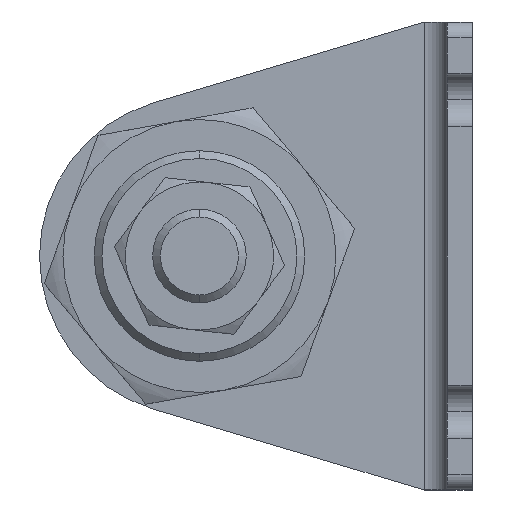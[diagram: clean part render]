
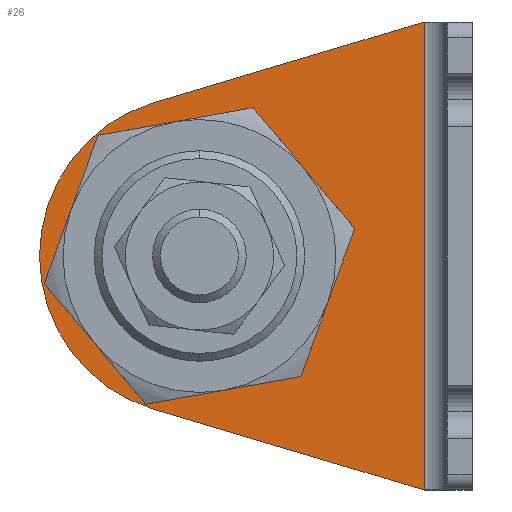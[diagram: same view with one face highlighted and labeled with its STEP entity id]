
A CAD part, left-side view. The second image highlights one B-rep face of the part: STEP entity #26.
In plain terms, the highlighted planar face has unit normal (-1, 0, 0) as drawn and (1, 0, 0) by its records, which use the part's own axes.
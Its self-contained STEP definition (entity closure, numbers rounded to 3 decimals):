
#26 = ADVANCED_FACE ( 'NONE', ( #3120, #3950 ), #1825, .T. ) ;
#176 = EDGE_CURVE ( 'NONE', #1059, #430, #4418, .T. ) ;
#430 = VERTEX_POINT ( 'NONE', #5179 ) ;
#468 = DIRECTION ( 'NONE',  ( 0., 0.958, -0.286 ) ) ;
#507 = DIRECTION ( 'NONE',  ( 0., 0.958, 0.286 ) ) ;
#577 = CARTESIAN_POINT ( 'NONE',  ( 3.2, 6.2, -60. ) ) ;
#688 = CARTESIAN_POINT ( 'NONE',  ( 3.2, 40.868, -10.358 ) ) ;
#972 = VECTOR ( 'NONE', #507, 1000. ) ;
#1059 = VERTEX_POINT ( 'NONE', #3911 ) ;
#1176 = DIRECTION ( 'NONE',  ( 0., 1., 0. ) ) ;
#1350 = DIRECTION ( 'NONE',  ( 0., 0., -1. ) ) ;
#1378 = DIRECTION ( 'NONE',  ( 1., 0., 0. ) ) ;
#1500 = CARTESIAN_POINT ( 'NONE',  ( 3.2, 35., -30. ) ) ;
#1685 = CIRCLE ( 'NONE', #4055, 13.5 ) ;
#1825 = PLANE ( 'NONE',  #2512 ) ;
#1915 = LINE ( 'NONE', #5150, #5566 ) ;
#1977 = ORIENTED_EDGE ( 'NONE', *, *, #5180, .F. ) ;
#2006 = LINE ( 'NONE', #3556, #4849 ) ;
#2019 = DIRECTION ( 'NONE',  ( 1., 0., 0. ) ) ;
#2277 = EDGE_CURVE ( 'NONE', #5093, #4476, #2006, .T. ) ;
#2317 = EDGE_CURVE ( 'NONE', #5093, #2628, #1915, .T. ) ;
#2512 = AXIS2_PLACEMENT_3D ( 'NONE', #3292, #2019, #4896 ) ;
#2628 = VERTEX_POINT ( 'NONE', #688 ) ;
#2792 = CARTESIAN_POINT ( 'NONE',  ( 3.2, 3.446, -60.823 ) ) ;
#2810 = CIRCLE ( 'NONE', #5396, 20.5 ) ;
#3045 = EDGE_CURVE ( 'NONE', #4876, #3445, #1685, .T. ) ;
#3120 = FACE_BOUND ( 'NONE', #4574, .T. ) ;
#3248 = ORIENTED_EDGE ( 'NONE', *, *, #2277, .T. ) ;
#3292 = CARTESIAN_POINT ( 'NONE',  ( 3.2, 3.2, -60. ) ) ;
#3370 = AXIS2_PLACEMENT_3D ( 'NONE', #4143, #3750, #4704 ) ;
#3405 = CARTESIAN_POINT ( 'NONE',  ( 3.2, 48.5, -30. ) ) ;
#3445 = VERTEX_POINT ( 'NONE', #3405 ) ;
#3509 = LINE ( 'NONE', #2792, #972 ) ;
#3556 = CARTESIAN_POINT ( 'NONE',  ( 3.2, 6.2, -60. ) ) ;
#3573 = CARTESIAN_POINT ( 'NONE',  ( 3.2, 35., -30. ) ) ;
#3750 = DIRECTION ( 'NONE',  ( 1., 0., 0. ) ) ;
#3766 = CARTESIAN_POINT ( 'NONE',  ( 3.2, 6.2, 0. ) ) ;
#3808 = EDGE_LOOP ( 'NONE', ( #4112, #5674, #4390, #5687, #3248 ) ) ;
#3911 = CARTESIAN_POINT ( 'NONE',  ( 3.2, 40.868, -49.642 ) ) ;
#3950 = FACE_OUTER_BOUND ( 'NONE', #3808, .T. ) ;
#3952 = AXIS2_PLACEMENT_3D ( 'NONE', #4919, #1378, #4623 ) ;
#4055 = AXIS2_PLACEMENT_3D ( 'NONE', #1500, #4939, #5602 ) ;
#4112 = ORIENTED_EDGE ( 'NONE', *, *, #5550, .T. ) ;
#4143 = CARTESIAN_POINT ( 'NONE',  ( 3.2, 35., -30. ) ) ;
#4313 = CIRCLE ( 'NONE', #3952, 13.5 ) ;
#4390 = ORIENTED_EDGE ( 'NONE', *, *, #5257, .T. ) ;
#4418 = CIRCLE ( 'NONE', #3370, 20.5 ) ;
#4476 = VERTEX_POINT ( 'NONE', #577 ) ;
#4574 = EDGE_LOOP ( 'NONE', ( #1977, #5294 ) ) ;
#4607 = CARTESIAN_POINT ( 'NONE',  ( 3.2, 21.5, -30. ) ) ;
#4618 = DIRECTION ( 'NONE',  ( 1., 0., 0. ) ) ;
#4623 = DIRECTION ( 'NONE',  ( 0., 1., 0. ) ) ;
#4704 = DIRECTION ( 'NONE',  ( 0., 1., 0. ) ) ;
#4849 = VECTOR ( 'NONE', #1350, 1000. ) ;
#4876 = VERTEX_POINT ( 'NONE', #4607 ) ;
#4896 = DIRECTION ( 'NONE',  ( 0., 1., 0. ) ) ;
#4919 = CARTESIAN_POINT ( 'NONE',  ( 3.2, 35., -30. ) ) ;
#4939 = DIRECTION ( 'NONE',  ( 1., 0., 0. ) ) ;
#5093 = VERTEX_POINT ( 'NONE', #3766 ) ;
#5150 = CARTESIAN_POINT ( 'NONE',  ( 3.2, 19.903, -4.094 ) ) ;
#5179 = CARTESIAN_POINT ( 'NONE',  ( 3.2, 55.5, -30. ) ) ;
#5180 = EDGE_CURVE ( 'NONE', #3445, #4876, #4313, .T. ) ;
#5257 = EDGE_CURVE ( 'NONE', #430, #2628, #2810, .T. ) ;
#5294 = ORIENTED_EDGE ( 'NONE', *, *, #3045, .F. ) ;
#5396 = AXIS2_PLACEMENT_3D ( 'NONE', #3573, #4618, #1176 ) ;
#5550 = EDGE_CURVE ( 'NONE', #4476, #1059, #3509, .T. ) ;
#5566 = VECTOR ( 'NONE', #468, 1000. ) ;
#5602 = DIRECTION ( 'NONE',  ( 0., 1., 0. ) ) ;
#5674 = ORIENTED_EDGE ( 'NONE', *, *, #176, .T. ) ;
#5687 = ORIENTED_EDGE ( 'NONE', *, *, #2317, .F. ) ;
